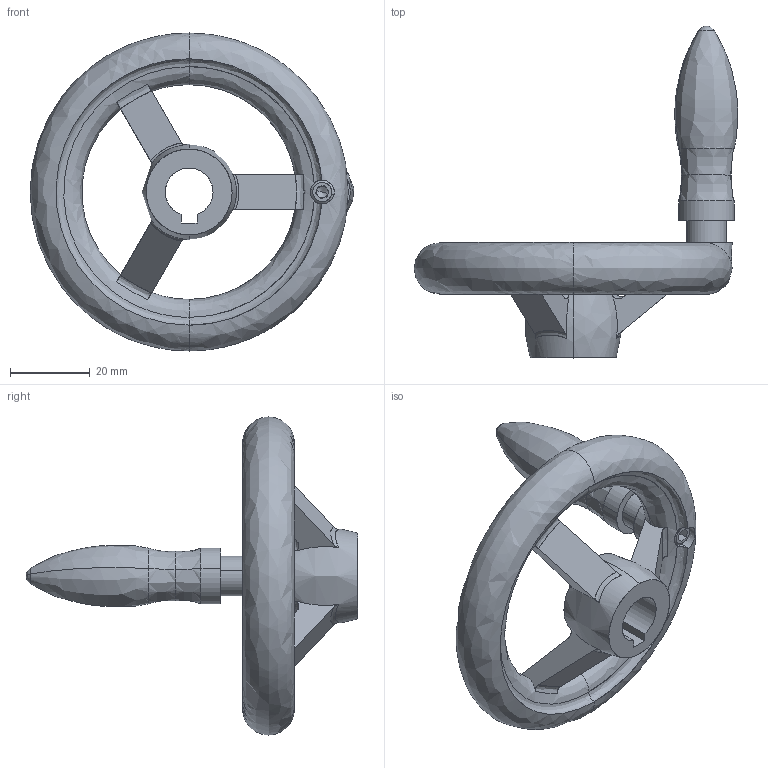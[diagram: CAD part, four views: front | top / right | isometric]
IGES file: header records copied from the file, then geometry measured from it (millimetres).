
Start section: SolidWorks IGES file using analytic representation for surfaces
Global section: file name: C:\Users\IanO\Desktop\Temp File\Process pending\77120_v2\77120_v2_20171108_IGES\77120.W0301.igs; native system: SolidWorks 2017; preprocessor: SolidWorks 2017; author: IanO; date: 171108.084454; units: millimetre
Bounding box: 81.43 x 83.5 x 80 mm (x, y, z)
Surface area: 17217.6 mm2 (no closed solid volume)
Topology: 0 solids, 0 shells, 142 faces, 1757 edges, 1748 vertices
Faces by surface type: bspline 77, revolution 65
